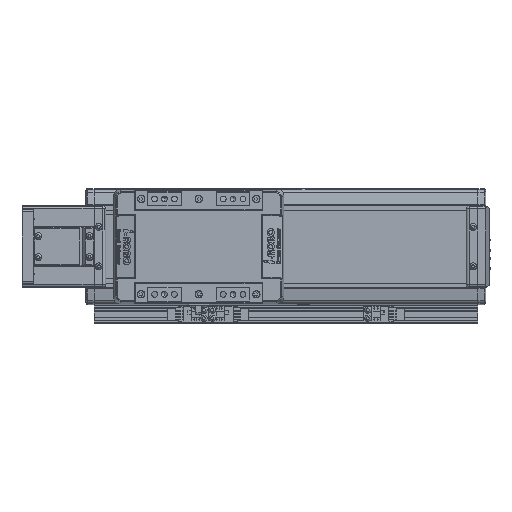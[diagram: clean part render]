
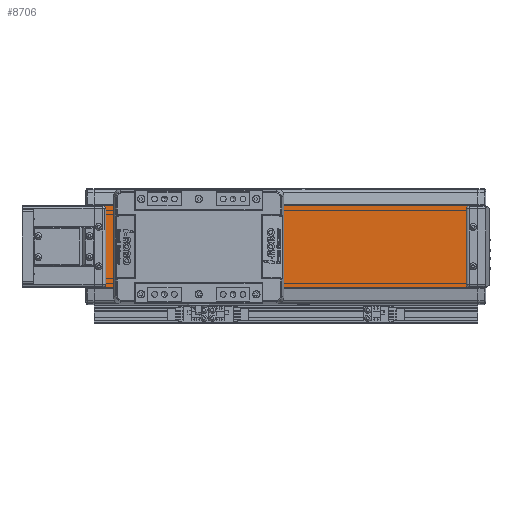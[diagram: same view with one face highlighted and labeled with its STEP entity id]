
A CAD part, top view. The second image highlights one B-rep face of the part: STEP entity #8706.
In plain terms, the highlighted planar face has unit normal (0, 0, 1).
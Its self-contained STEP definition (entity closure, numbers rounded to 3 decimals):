
#8706=ADVANCED_FACE('',(#17620),#17621,.T.);
#17620=FACE_OUTER_BOUND('',#27425,.T.);
#17621=PLANE('',#27426);
#27425=EDGE_LOOP('',(#52554,#52555,#52556,#52557));
#27426=AXIS2_PLACEMENT_3D('',#52558,#52559,#52560);
#52554=ORIENTED_EDGE('',*,*,#60268,.T.);
#52555=ORIENTED_EDGE('',*,*,#59659,.F.);
#52556=ORIENTED_EDGE('',*,*,#54429,.T.);
#52557=ORIENTED_EDGE('',*,*,#55367,.T.);
#52558=CARTESIAN_POINT('',(-580.,0.,20.15));
#52559=DIRECTION('',(0.,0.,1.0));
#52560=DIRECTION('',(0.,-1.0,0.));
#54429=EDGE_CURVE('',#65131,#65129,#65132,.T.);
#55367=EDGE_CURVE('',#65129,#66783,#66785,.T.);
#59659=EDGE_CURVE('',#65131,#73634,#73638,.T.);
#60268=EDGE_CURVE('',#66783,#73634,#74495,.T.);
#65129=VERTEX_POINT('',#80457);
#65131=VERTEX_POINT('',#80460);
#65132=LINE('',#80461,#80462);
#66783=VERTEX_POINT('',#82734);
#66785=LINE('',#82737,#82738);
#73634=VERTEX_POINT('',#92481);
#73638=LINE('',#92487,#92488);
#74495=LINE('',#93850,#93851);
#80457=CARTESIAN_POINT('',(-580.,-35.,20.15));
#80460=CARTESIAN_POINT('',(-580.,35.,20.15));
#80461=CARTESIAN_POINT('',(-580.,35.,20.15));
#80462=VECTOR('',#100650,10.0);
#82734=CARTESIAN_POINT('',(-250.,-35.,20.15));
#82737=CARTESIAN_POINT('',(-580.,-35.,20.15));
#82738=VECTOR('',#101936,10.0);
#92481=CARTESIAN_POINT('',(-250.,35.,20.15));
#92487=CARTESIAN_POINT('',(-580.,35.,20.15));
#92488=VECTOR('',#107816,10.0);
#93850=CARTESIAN_POINT('',(-250.,35.,20.15));
#93851=VECTOR('',#108548,10.0);
#100650=DIRECTION('',(0.,-1.0,0.));
#101936=DIRECTION('',(1.0,0.,0.));
#107816=DIRECTION('',(1.0,0.,0.));
#108548=DIRECTION('',(0.,1.0,0.));
